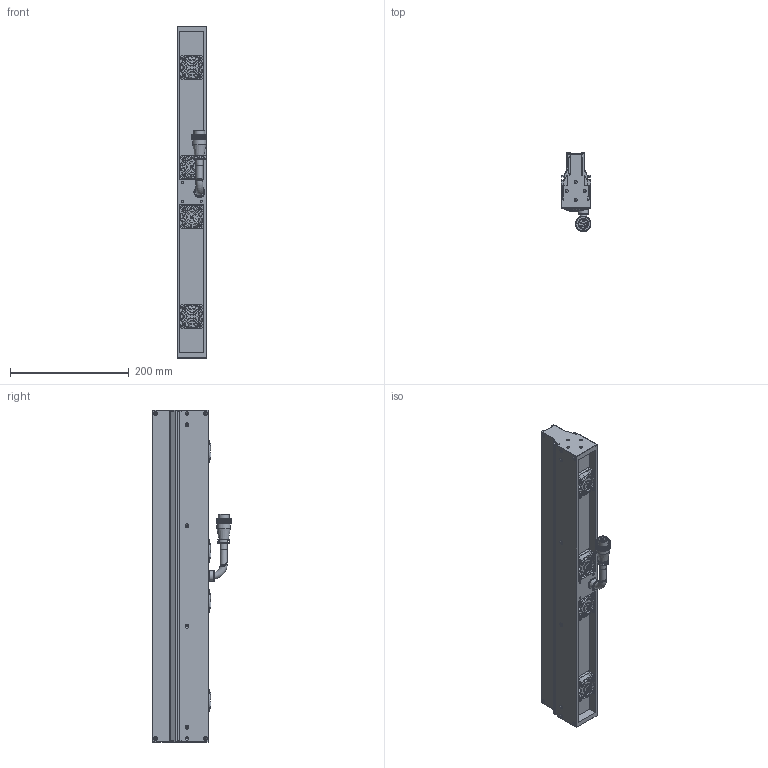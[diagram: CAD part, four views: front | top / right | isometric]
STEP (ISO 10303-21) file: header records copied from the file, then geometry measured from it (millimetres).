
FILE_DESCRIPTION (( 'STEP AP203' ), '1' );
FILE_NAME ('OPT-LSS560-R-V3.1U尨砩芞.STEP', '2025-02-08T07:44:01', ( '' ), ( '' ), 'SwSTEP 2.0', 'SolidWorks 2016', '' );
FILE_SCHEMA (( 'CONFIG_CONTROL_DESIGN' ));
Length unit declared in the file: millimetre
Products named in the file (1): OPT-LSS560-R-V3.1U尨砩芞
Bounding box: 50.6 x 133 x 560 mm (x, y, z)
Volume: 1916765.4 mm3; surface area: 327691.2 mm2
Topology: 22 solids, 26 shells, 2706 faces, 7003 edges, 4455 vertices
Faces by surface type: bspline 1051, cylinder 817, plane 623, torus 160, cone 55
Full cylindrical faces by diameter (mm): 1 x2, 1.1 x2, 1.4 x2, 1.6 x16, 2 x4, 2.5 x24, 3 x4, 3.2 x20, 3.4 x20, 3.5 x12, 5 x8, 6.2 x16, 8 x1, 11.6 x1, 11.7 x3, 12 x1, 15 x1, 15.9 x1, 17.5 x1, 18 x1, 18.5 x1, 22.8 x1, 24 x1, 24.8 x4, 38 x4
Entity records: 102699 total; most frequent: CARTESIAN_POINT 48978, ORIENTED_EDGE 13214, DIRECTION 6968, EDGE_CURVE 6607, VERTEX_POINT 4358, B_SPLINE_CURVE_WITH_KNOTS 4085, EDGE_LOOP 3151, FACE_OUTER_BOUND 2934
